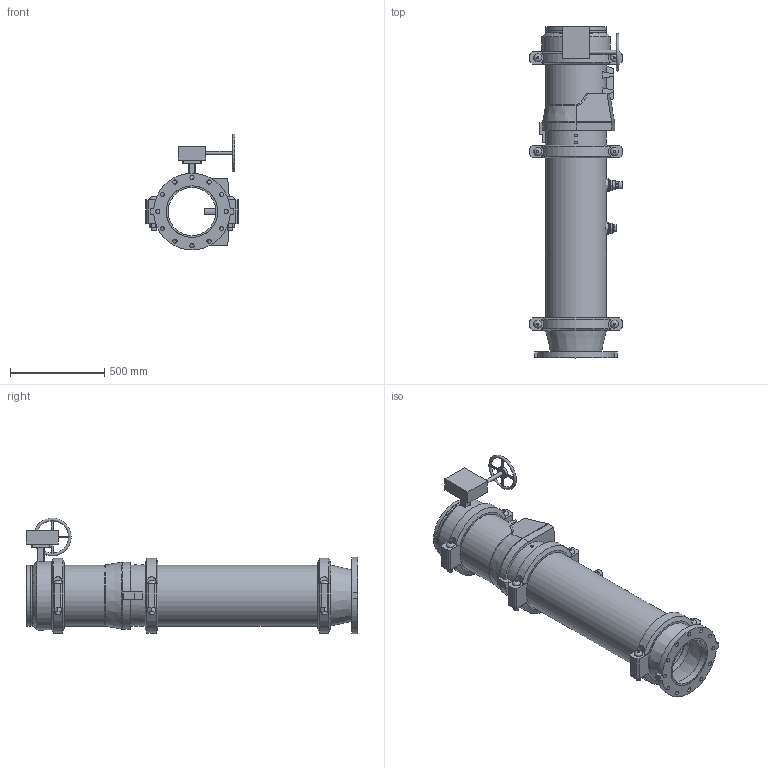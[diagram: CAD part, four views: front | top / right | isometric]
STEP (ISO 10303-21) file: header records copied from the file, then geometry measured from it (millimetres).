
FILE_DESCRIPTION(/* description */ ('VIC DVI PUMP DROP VERT S/380 (OGSxFLG) (S/924-0.75)','CAx-IF Rec.Pracs.---Representation and Presentation of Product Manufacturing Information (PMI)---4.0---2014-10-13'),/* implementation_level */ '2;1');
FILE_NAME(/* name */ 'C:\Users\Public\Documents\Victaulic.Temp\A765\Victaulic_IPS_Vertical DVI_CL 150_Series 380 (OGSxFLG)_924 (0.75)_12.0x10.0 (300x250).stp',/* time_stamp */ '2022-07-25T11:15:01+02:00',/* author */ ('Vjadhav'),/* organization */ ('Victaulic'),/* preprocessor_version */ 'ST-DEVELOPER v18',/* originating_system */ 'Autodesk Inventor 2020',/* authorisation */ '');
FILE_SCHEMA (('AP242_MANAGED_MODEL_BASED_3D_ENGINEERING_MIM_LF { 1 0 10303 442 1 1 4 }'));
Length unit declared in the file: inch
Products named in the file (9): 380_924 (0.75)-12.0x10.0; 741-10.0; 050-12.0x10.0; Pipe-12.0; 779-12.0; 923-10.0x0.75; 924-10.0x0.75; 761-12.0; 077-12.0
Assembly tree (10 placements, depth 2):
  380_924 (0.75)-12.0x10.0
    741-10.0
    050-12.0x10.0
    Pipe-12.0
    779-12.0
    923-10.0x0.75
    924-10.0x0.75
    761-12.0
    077-12.0  x3
Bounding box: 488.95 x 1760.22 x 614.15 mm (x, y, z)
Volume: 38813894.8 mm3; surface area: 5151506.8 mm2
Topology: 10 solids, 17 shells, 498 faces, 1254 edges, 854 vertices
Faces by surface type: plane 299, cylinder 164, cone 20, bspline 8, torus 7
Full cylindrical faces by diameter (mm): 10.922 x4, 13.716 x4, 20.066 x1, 21.336 x1, 22.225 x12, 22.86 x1, 25.4 x12, 26.67 x2, 27.432 x6, 31.75 x1, 38.608 x1, 45.974 x4, 55.626 x2, 63.079 x1, 70.104 x1, 76.2 x1, 254.508 x1, 268.275 x1, 273.05 x3, 303.225 x2, 304.8 x2, 314.96 x3, 318.287 x7, 323.85 x19, 361.95 x1
Entity records: 12935 total; most frequent: CARTESIAN_POINT 2574, DIRECTION 2106, ORIENTED_EDGE 1928, EDGE_CURVE 964, AXIS2_PLACEMENT_3D 804, VERTEX_POINT 658, LINE 498, VECTOR 498
